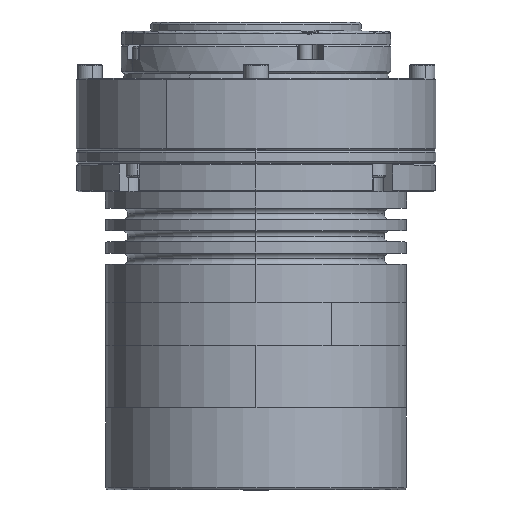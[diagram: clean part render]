
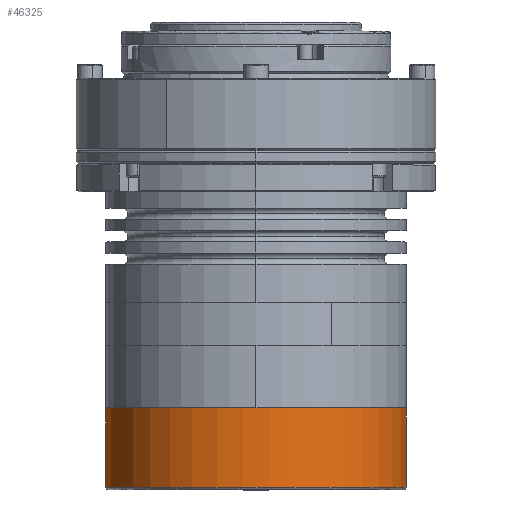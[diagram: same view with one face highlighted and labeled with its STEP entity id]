
A CAD part, top view. The second image highlights one B-rep face of the part: STEP entity #46325.
In plain terms, the highlighted cylindrical face has radius 33.5 mm (diameter 67 mm), a partial arc.
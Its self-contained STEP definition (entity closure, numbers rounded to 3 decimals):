
#162 = DIRECTION ( 'NONE',  ( 0., 0., 1. ) ) ;
#265 = DIRECTION ( 'NONE',  ( 1., 0., 0. ) ) ;
#9180 = VERTEX_POINT ( 'NONE', #11903 ) ;
#9441 = AXIS2_PLACEMENT_3D ( 'NONE', #26119, #30718, #53926 ) ;
#9472 = CARTESIAN_POINT ( 'NONE',  ( 33.5, 0., -18.2 ) ) ;
#9684 = CARTESIAN_POINT ( 'NONE',  ( 0., 0., -18.2 ) ) ;
#11233 = EDGE_LOOP ( 'NONE', ( #53501, #26389, #37905, #15794 ) ) ;
#11903 = CARTESIAN_POINT ( 'NONE',  ( -33.5, 0., -0.5 ) ) ;
#12986 = VERTEX_POINT ( 'NONE', #9472 ) ;
#14975 = FACE_OUTER_BOUND ( 'NONE', #11233, .T. ) ;
#15794 = ORIENTED_EDGE ( 'NONE', *, *, #20202, .F. ) ;
#18578 = CARTESIAN_POINT ( 'NONE',  ( -33.5, 0., 21.794 ) ) ;
#20202 = EDGE_CURVE ( 'NONE', #12986, #30717, #56711, .T. ) ;
#24446 = DIRECTION ( 'NONE',  ( 0., 0., 1. ) ) ;
#26119 = CARTESIAN_POINT ( 'NONE',  ( 0., 0., -0.5 ) ) ;
#26389 = ORIENTED_EDGE ( 'NONE', *, *, #34698, .T. ) ;
#28612 = CIRCLE ( 'NONE', #45147, 33.5 ) ;
#30717 = VERTEX_POINT ( 'NONE', #44409 ) ;
#30718 = DIRECTION ( 'NONE',  ( 0., 0., -1. ) ) ;
#32884 = DIRECTION ( 'NONE',  ( 0., 0., 1. ) ) ;
#33656 = CYLINDRICAL_SURFACE ( 'NONE', #39921, 33.5 ) ;
#34698 = EDGE_CURVE ( 'NONE', #56727, #9180, #55265, .T. ) ;
#35831 = CIRCLE ( 'NONE', #9441, 33.5 ) ;
#37905 = ORIENTED_EDGE ( 'NONE', *, *, #45649, .T. ) ;
#38320 = VECTOR ( 'NONE', #46138, 1000. ) ;
#39921 = AXIS2_PLACEMENT_3D ( 'NONE', #55984, #24446, #265 ) ;
#44409 = CARTESIAN_POINT ( 'NONE',  ( 33.5, 0., -0.5 ) ) ;
#45147 = AXIS2_PLACEMENT_3D ( 'NONE', #9684, #162, #60470 ) ;
#45649 = EDGE_CURVE ( 'NONE', #9180, #30717, #35831, .T. ) ;
#46138 = DIRECTION ( 'NONE',  ( 0., 0., 1. ) ) ;
#46325 = ADVANCED_FACE ( 'NONE', ( #14975 ), #33656, .T. ) ;
#50228 = CARTESIAN_POINT ( 'NONE',  ( -33.5, 0., -18.2 ) ) ;
#51218 = CARTESIAN_POINT ( 'NONE',  ( 33.5, 0., 21.794 ) ) ;
#53499 = VECTOR ( 'NONE', #32884, 1000. ) ;
#53501 = ORIENTED_EDGE ( 'NONE', *, *, #54139, .T. ) ;
#53926 = DIRECTION ( 'NONE',  ( 1., 0., 0. ) ) ;
#54139 = EDGE_CURVE ( 'NONE', #12986, #56727, #28612, .T. ) ;
#55265 = LINE ( 'NONE', #18578, #38320 ) ;
#55984 = CARTESIAN_POINT ( 'NONE',  ( 0., 0., 21.794 ) ) ;
#56711 = LINE ( 'NONE', #51218, #53499 ) ;
#56727 = VERTEX_POINT ( 'NONE', #50228 ) ;
#60470 = DIRECTION ( 'NONE',  ( 1., 0., 0. ) ) ;
